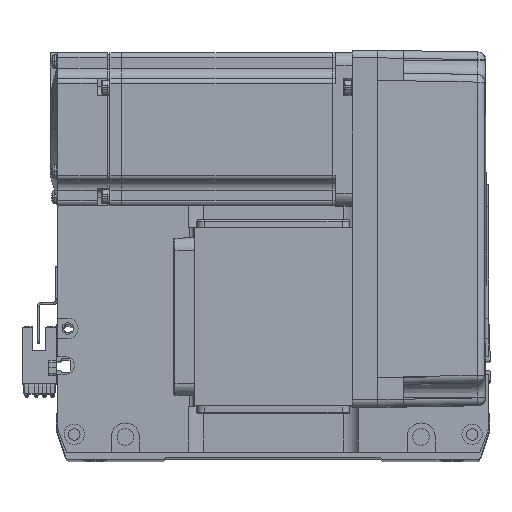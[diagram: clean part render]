
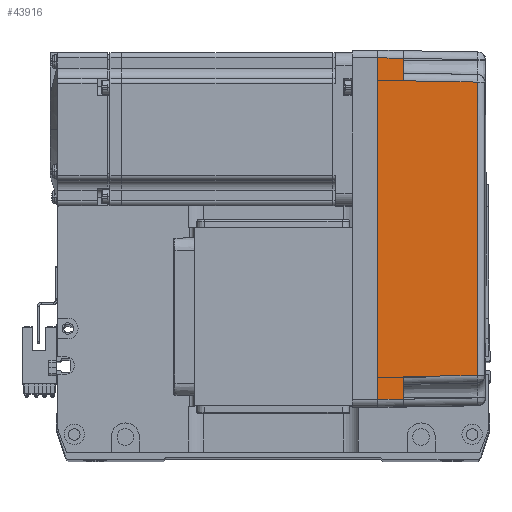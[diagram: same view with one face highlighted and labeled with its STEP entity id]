
A CAD part, top view. The second image highlights one B-rep face of the part: STEP entity #43916.
In plain terms, the highlighted planar face has unit normal (0.018, 0, 1) as drawn and (0, -1, 0.017) by its records, which use the part's own axes.
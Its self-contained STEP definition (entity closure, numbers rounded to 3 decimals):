
#25 = DIRECTION ( 'NONE',  ( 0., -1., 0.017 ) ) ;
#1397 = EDGE_CURVE ( 'NONE', #4977, #37022, #36104, .T. ) ;
#4096 = CARTESIAN_POINT ( 'NONE',  ( 70., -36., 0. ) ) ;
#4181 = CARTESIAN_POINT ( 'NONE',  ( 67., -36., 0. ) ) ;
#4977 = VERTEX_POINT ( 'NONE', #40852 ) ;
#5007 = ORIENTED_EDGE ( 'NONE', *, *, #28160, .T. ) ;
#7761 = LINE ( 'NONE', #12049, #26111 ) ;
#10680 = DIRECTION ( 'NONE',  ( -0.017, 0.017, 1. ) ) ;
#10740 = EDGE_CURVE ( 'NONE', #37022, #23249, #43983, .T. ) ;
#12049 = CARTESIAN_POINT ( 'NONE',  ( 67., -36., 0. ) ) ;
#13143 = CARTESIAN_POINT ( 'NONE',  ( 19.165, -35.316, 39.181 ) ) ;
#13739 = PLANE ( 'NONE',  #46943 ) ;
#15357 = VERTEX_POINT ( 'NONE', #49140 ) ;
#15888 = ORIENTED_EDGE ( 'NONE', *, *, #20328, .F. ) ;
#16130 = LINE ( 'NONE', #17307, #19755 ) ;
#17045 = ORIENTED_EDGE ( 'NONE', *, *, #21378, .T. ) ;
#17307 = CARTESIAN_POINT ( 'NONE',  ( -66.959, -35.958, 2.39 ) ) ;
#18904 = EDGE_CURVE ( 'NONE', #32381, #30747, #35349, .T. ) ;
#19673 = CARTESIAN_POINT ( 'NONE',  ( 58., -35.825, 10. ) ) ;
#19755 = VECTOR ( 'NONE', #49480, 1000. ) ;
#20328 = EDGE_CURVE ( 'NONE', #15357, #23249, #16130, .T. ) ;
#20533 = DIRECTION ( 'NONE',  ( -1., 0., 0. ) ) ;
#20667 = VECTOR ( 'NONE', #23092, 1000. ) ;
#21161 = CARTESIAN_POINT ( 'NONE',  ( 70., -35.825, 10. ) ) ;
#21378 = EDGE_CURVE ( 'NONE', #30747, #46611, #53481, .T. ) ;
#23092 = DIRECTION ( 'NONE',  ( -0.017, -0.017, -1. ) ) ;
#23249 = VERTEX_POINT ( 'NONE', #48041 ) ;
#23852 = ORIENTED_EDGE ( 'NONE', *, *, #40795, .F. ) ;
#24341 = ORIENTED_EDGE ( 'NONE', *, *, #54440, .T. ) ;
#24772 = DIRECTION ( 'NONE',  ( -1., 0., 0. ) ) ;
#26111 = VECTOR ( 'NONE', #58962, 1000. ) ;
#28160 = EDGE_CURVE ( 'NONE', #46611, #4977, #51011, .T. ) ;
#30534 = CARTESIAN_POINT ( 'NONE',  ( -58., -35.825, 10. ) ) ;
#30594 = CARTESIAN_POINT ( 'NONE',  ( 57.495, -35.32, 38.985 ) ) ;
#30747 = VERTEX_POINT ( 'NONE', #33804 ) ;
#32381 = VERTEX_POINT ( 'NONE', #44120 ) ;
#32888 = EDGE_LOOP ( 'NONE', ( #24341, #43959, #17045, #5007, #58391, #45672, #15888, #23852 ) ) ;
#33644 = CARTESIAN_POINT ( 'NONE',  ( 0., -36., 0. ) ) ;
#33804 = CARTESIAN_POINT ( 'NONE',  ( 58., -35.825, 10. ) ) ;
#35349 = LINE ( 'NONE', #21161, #52165 ) ;
#36104 = LINE ( 'NONE', #42404, #20667 ) ;
#36838 = DIRECTION ( 'NONE',  ( -1., 0., 0. ) ) ;
#37022 = VERTEX_POINT ( 'NONE', #30534 ) ;
#39613 = VECTOR ( 'NONE', #10680, 1000. ) ;
#40795 = EDGE_CURVE ( 'NONE', #44871, #15357, #41850, .T. ) ;
#40852 = CARTESIAN_POINT ( 'NONE',  ( -57.495, -35.32, 38.985 ) ) ;
#41850 = LINE ( 'NONE', #33644, #51288 ) ;
#42066 = CARTESIAN_POINT ( 'NONE',  ( -19.165, -35.316, 39.181 ) ) ;
#42228 = DIRECTION ( 'NONE',  ( 0., -0.017, -1. ) ) ;
#42404 = CARTESIAN_POINT ( 'NONE',  ( -57.495, -35.32, 38.985 ) ) ;
#43236 = VECTOR ( 'NONE', #36838, 1000. ) ;
#43916 = ADVANCED_FACE ( 'NONE', ( #56606 ), #13739, .T. ) ;
#43959 = ORIENTED_EDGE ( 'NONE', *, *, #18904, .T. ) ;
#43983 = LINE ( 'NONE', #46847, #43236 ) ;
#44120 = CARTESIAN_POINT ( 'NONE',  ( 66.826, -35.825, 10. ) ) ;
#44871 = VERTEX_POINT ( 'NONE', #4181 ) ;
#45672 = ORIENTED_EDGE ( 'NONE', *, *, #10740, .T. ) ;
#46145 = CARTESIAN_POINT ( 'NONE',  ( -57.495, -35.32, 38.985 ) ) ;
#46611 = VERTEX_POINT ( 'NONE', #30594 ) ;
#46847 = CARTESIAN_POINT ( 'NONE',  ( 70., -35.825, 10. ) ) ;
#46943 = AXIS2_PLACEMENT_3D ( 'NONE', #4096, #25, #42228 ) ;
#48041 = CARTESIAN_POINT ( 'NONE',  ( -66.826, -35.825, 10. ) ) ;
#49140 = CARTESIAN_POINT ( 'NONE',  ( -67., -36., 0. ) ) ;
#49480 = DIRECTION ( 'NONE',  ( 0.017, 0.017, 1. ) ) ;
#51011 = B_SPLINE_CURVE_WITH_KNOTS ( 'NONE', 3,
 ( #59850, #13143, #42066, #46145 ),
 .UNSPECIFIED., .F., .F.,
 ( 4, 4 ),
 ( 0., 1. ),
 .UNSPECIFIED. ) ;
#51288 = VECTOR ( 'NONE', #24772, 1000. ) ;
#52165 = VECTOR ( 'NONE', #20533, 1000. ) ;
#53481 = LINE ( 'NONE', #19673, #39613 ) ;
#54440 = EDGE_CURVE ( 'NONE', #44871, #32381, #7761, .T. ) ;
#56606 = FACE_OUTER_BOUND ( 'NONE', #32888, .T. ) ;
#58391 = ORIENTED_EDGE ( 'NONE', *, *, #1397, .T. ) ;
#58962 = DIRECTION ( 'NONE',  ( -0.017, 0.017, 1. ) ) ;
#59850 = CARTESIAN_POINT ( 'NONE',  ( 57.495, -35.32, 38.985 ) ) ;
